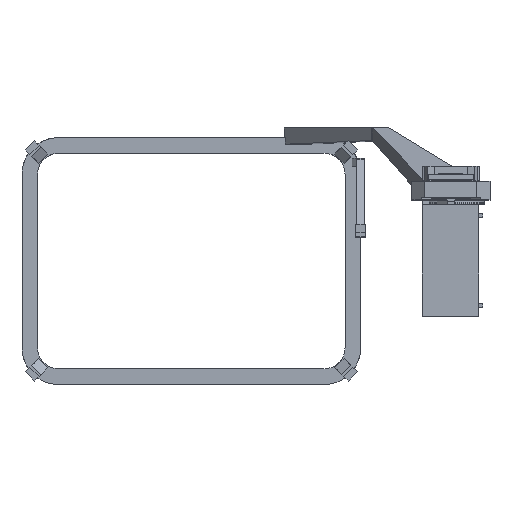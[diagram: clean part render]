
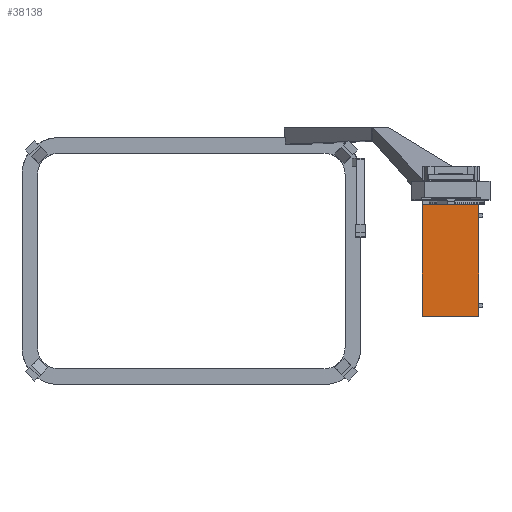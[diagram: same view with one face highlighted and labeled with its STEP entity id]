
A CAD part, top view. The second image highlights one B-rep face of the part: STEP entity #38138.
In plain terms, the highlighted planar face has unit normal (0, 0, 1).
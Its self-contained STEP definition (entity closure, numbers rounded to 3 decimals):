
#18879 = PLANE('',#18880);
#18880 = AXIS2_PLACEMENT_3D('',#18881,#18882,#18883);
#18881 = CARTESIAN_POINT('',(71.048,0.,90.));
#18882 = DIRECTION('',(1.,0.,0.));
#18883 = DIRECTION('',(0.,1.,0.));
#18907 = PLANE('',#18908);
#18908 = AXIS2_PLACEMENT_3D('',#18909,#18910,#18911);
#18909 = CARTESIAN_POINT('',(71.048,-17.1,104.5));
#18910 = DIRECTION('',(0.,1.,0.));
#18911 = DIRECTION('',(0.,0.,-1.));
#19053 = VERTEX_POINT('',#19054);
#19054 = CARTESIAN_POINT('',(71.048,-17.1,104.5));
#19075 = EDGE_CURVE('',#19076,#19053,#19078,.T.);
#19076 = VERTEX_POINT('',#19077);
#19077 = CARTESIAN_POINT('',(88.3,-17.1,104.5));
#19078 = SURFACE_CURVE('',#19079,(#19083,#19090),.PCURVE_S1.);
#19079 = LINE('',#19080,#19081);
#19080 = CARTESIAN_POINT('',(88.3,-17.1,104.5));
#19081 = VECTOR('',#19082,1.);
#19082 = DIRECTION('',(-1.,0.,0.));
#19083 = PCURVE('',#18907,#19084);
#19084 = DEFINITIONAL_REPRESENTATION('',(#19085),#19089);
#19085 = LINE('',#19086,#19087);
#19086 = CARTESIAN_POINT('',(0.,-17.252));
#19087 = VECTOR('',#19088,1.);
#19088 = DIRECTION('',(0.,1.));
#19089 = ( GEOMETRIC_REPRESENTATION_CONTEXT(2) 
PARAMETRIC_REPRESENTATION_CONTEXT() REPRESENTATION_CONTEXT('2D SPACE',''
  ) );
#19090 = PCURVE('',#19091,#19096);
#19091 = PLANE('',#19092);
#19092 = AXIS2_PLACEMENT_3D('',#19093,#19094,#19095);
#19093 = CARTESIAN_POINT('',(71.048,17.1,104.5));
#19094 = DIRECTION('',(0.,0.,-1.));
#19095 = DIRECTION('',(0.,-1.,0.));
#19096 = DEFINITIONAL_REPRESENTATION('',(#19097),#19101);
#19097 = LINE('',#19098,#19099);
#19098 = CARTESIAN_POINT('',(34.2,-17.252));
#19099 = VECTOR('',#19100,1.);
#19100 = DIRECTION('',(0.,1.));
#19101 = ( GEOMETRIC_REPRESENTATION_CONTEXT(2) 
PARAMETRIC_REPRESENTATION_CONTEXT() REPRESENTATION_CONTEXT('2D SPACE',''
  ) );
#19119 = PLANE('',#19120);
#19120 = AXIS2_PLACEMENT_3D('',#19121,#19122,#19123);
#19121 = CARTESIAN_POINT('',(88.3,-17.1,75.5));
#19122 = DIRECTION('',(1.,0.,0.));
#19123 = DIRECTION('',(0.,0.,1.));
#34547 = PLANE('',#34548);
#34548 = AXIS2_PLACEMENT_3D('',#34549,#34550,#34551);
#34549 = CARTESIAN_POINT('',(71.048,17.1,75.5));
#34550 = DIRECTION('',(0.,-1.,0.));
#34551 = DIRECTION('',(0.,0.,1.));
#34584 = VERTEX_POINT('',#34585);
#34585 = CARTESIAN_POINT('',(88.3,17.1,104.5));
#34608 = EDGE_CURVE('',#34584,#34609,#34611,.T.);
#34609 = VERTEX_POINT('',#34610);
#34610 = CARTESIAN_POINT('',(71.048,17.1,104.5));
#34611 = SURFACE_CURVE('',#34612,(#34616,#34623),.PCURVE_S1.);
#34612 = LINE('',#34613,#34614);
#34613 = CARTESIAN_POINT('',(88.3,17.1,104.5));
#34614 = VECTOR('',#34615,1.);
#34615 = DIRECTION('',(-1.,0.,0.));
#34616 = PCURVE('',#34547,#34617);
#34617 = DEFINITIONAL_REPRESENTATION('',(#34618),#34622);
#34618 = LINE('',#34619,#34620);
#34619 = CARTESIAN_POINT('',(29.,-17.252));
#34620 = VECTOR('',#34621,1.);
#34621 = DIRECTION('',(0.,1.));
#34622 = ( GEOMETRIC_REPRESENTATION_CONTEXT(2) 
PARAMETRIC_REPRESENTATION_CONTEXT() REPRESENTATION_CONTEXT('2D SPACE',''
  ) );
#34623 = PCURVE('',#19091,#34624);
#34624 = DEFINITIONAL_REPRESENTATION('',(#34625),#34629);
#34625 = LINE('',#34626,#34627);
#34626 = CARTESIAN_POINT('',(0.,-17.252));
#34627 = VECTOR('',#34628,1.);
#34628 = DIRECTION('',(0.,1.));
#34629 = ( GEOMETRIC_REPRESENTATION_CONTEXT(2) 
PARAMETRIC_REPRESENTATION_CONTEXT() REPRESENTATION_CONTEXT('2D SPACE',''
  ) );
#38118 = EDGE_CURVE('',#34584,#19076,#38119,.T.);
#38119 = SURFACE_CURVE('',#38120,(#38124,#38131),.PCURVE_S1.);
#38120 = LINE('',#38121,#38122);
#38121 = CARTESIAN_POINT('',(88.3,17.1,104.5));
#38122 = VECTOR('',#38123,1.);
#38123 = DIRECTION('',(0.,-1.,0.));
#38124 = PCURVE('',#19119,#38125);
#38125 = DEFINITIONAL_REPRESENTATION('',(#38126),#38130);
#38126 = LINE('',#38127,#38128);
#38127 = CARTESIAN_POINT('',(29.,-34.2));
#38128 = VECTOR('',#38129,1.);
#38129 = DIRECTION('',(0.,1.));
#38130 = ( GEOMETRIC_REPRESENTATION_CONTEXT(2) 
PARAMETRIC_REPRESENTATION_CONTEXT() REPRESENTATION_CONTEXT('2D SPACE',''
  ) );
#38131 = PCURVE('',#19091,#38132);
#38132 = DEFINITIONAL_REPRESENTATION('',(#38133),#38137);
#38133 = LINE('',#38134,#38135);
#38134 = CARTESIAN_POINT('',(0.,-17.252));
#38135 = VECTOR('',#38136,1.);
#38136 = DIRECTION('',(1.,0.));
#38137 = ( GEOMETRIC_REPRESENTATION_CONTEXT(2) 
PARAMETRIC_REPRESENTATION_CONTEXT() REPRESENTATION_CONTEXT('2D SPACE',''
  ) );
#38138 = ADVANCED_FACE('',(#38139),#19091,.F.);
#38139 = FACE_BOUND('',#38140,.F.);
#38140 = EDGE_LOOP('',(#38141,#38162,#38163,#38164));
#38141 = ORIENTED_EDGE('',*,*,#38142,.T.);
#38142 = EDGE_CURVE('',#19053,#34609,#38143,.T.);
#38143 = SURFACE_CURVE('',#38144,(#38148,#38155),.PCURVE_S1.);
#38144 = LINE('',#38145,#38146);
#38145 = CARTESIAN_POINT('',(71.048,-17.1,104.5));
#38146 = VECTOR('',#38147,1.);
#38147 = DIRECTION('',(0.,1.,0.));
#38148 = PCURVE('',#19091,#38149);
#38149 = DEFINITIONAL_REPRESENTATION('',(#38150),#38154);
#38150 = LINE('',#38151,#38152);
#38151 = CARTESIAN_POINT('',(34.2,0.));
#38152 = VECTOR('',#38153,1.);
#38153 = DIRECTION('',(-1.,0.));
#38154 = ( GEOMETRIC_REPRESENTATION_CONTEXT(2) 
PARAMETRIC_REPRESENTATION_CONTEXT() REPRESENTATION_CONTEXT('2D SPACE',''
  ) );
#38155 = PCURVE('',#18879,#38156);
#38156 = DEFINITIONAL_REPRESENTATION('',(#38157),#38161);
#38157 = LINE('',#38158,#38159);
#38158 = CARTESIAN_POINT('',(-17.1,14.5));
#38159 = VECTOR('',#38160,1.);
#38160 = DIRECTION('',(1.,0.));
#38161 = ( GEOMETRIC_REPRESENTATION_CONTEXT(2) 
PARAMETRIC_REPRESENTATION_CONTEXT() REPRESENTATION_CONTEXT('2D SPACE',''
  ) );
#38162 = ORIENTED_EDGE('',*,*,#34608,.F.);
#38163 = ORIENTED_EDGE('',*,*,#38118,.T.);
#38164 = ORIENTED_EDGE('',*,*,#19075,.T.);
